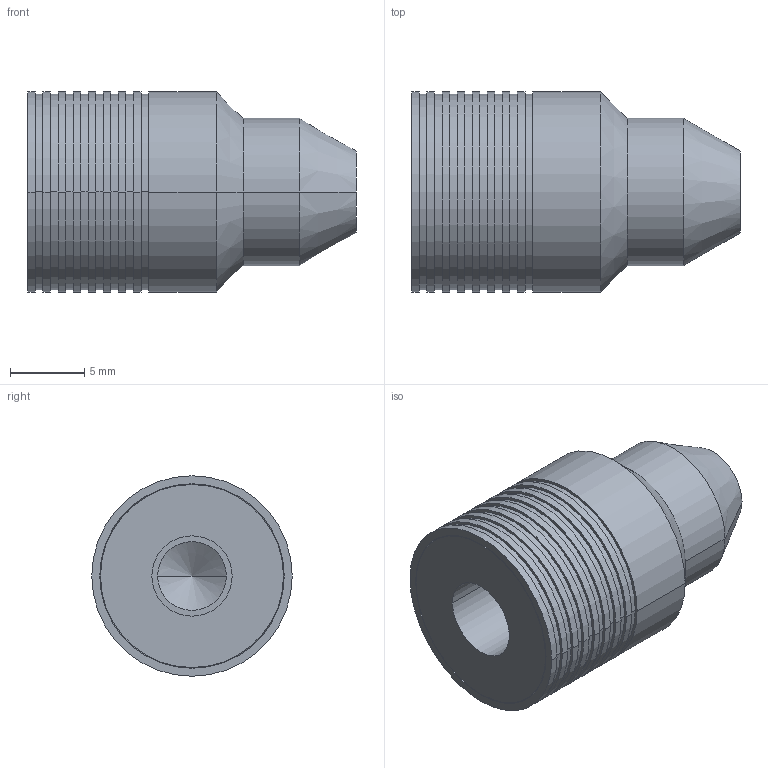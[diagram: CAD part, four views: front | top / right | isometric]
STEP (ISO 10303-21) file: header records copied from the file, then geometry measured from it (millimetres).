
FILE_DESCRIPTION(('CoCreate Modeling STEP Export'),'2;1');
FILE_NAME('PLRA5310010A.stp','2012-01-10T10:35:12',(''),(''),'CoCreate Modeling STEP processor for AP214 (Solid Model)','CoCreate Modeling 17.0 01-Apr-2010 (C) Parametric Technology GmbH','');
FILE_SCHEMA(('AUTOMOTIVE_DESIGN { 1 0 10303 214 1 1 1 1 }'));
Length unit declared in the file: millimetre
Products named in the file (1): PLRA5310010A
Bounding box: 22.1 x 13.49 x 13.49 mm (x, y, z)
Volume: 2058 mm3; surface area: 1465.5 mm2
Topology: 1 solids, 1 shells, 70 faces, 184 edges, 133 vertices
Faces by surface type: cylinder 42, plane 20, cone 8
Entity records: 2295 total; most frequent: ORIENTED_EDGE 364, CARTESIAN_POINT 273, DIRECTION 230, EDGE_CURVE 182, VERTEX_POINT 133, AXIS2_PLACEMENT_3D 90, EDGE_LOOP 89, COLOUR_RGB 71
